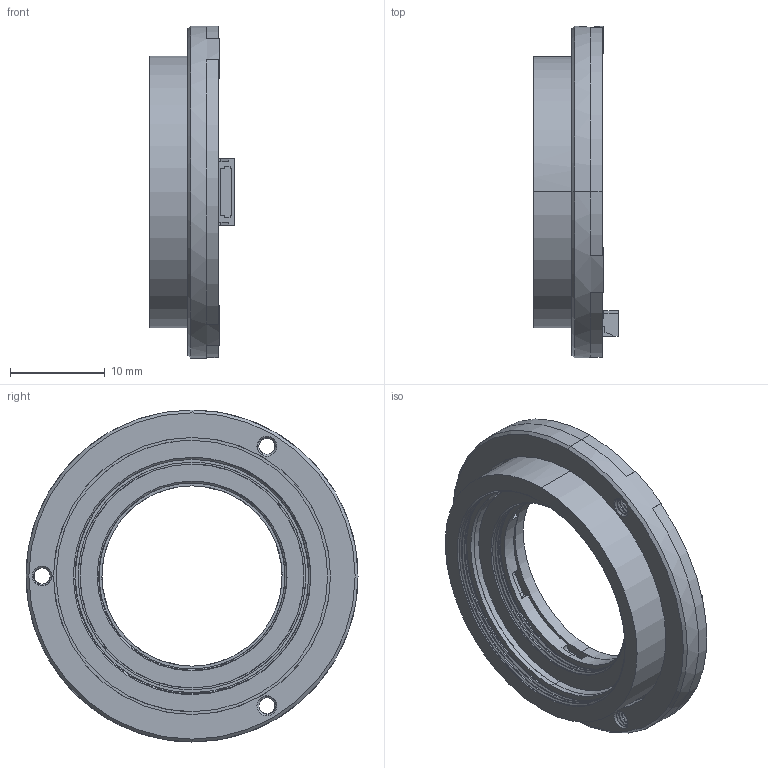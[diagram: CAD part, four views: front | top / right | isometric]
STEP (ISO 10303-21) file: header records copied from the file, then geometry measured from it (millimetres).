
FILE_DESCRIPTION (( 'STEP AP214' ), '1' );
FILE_NAME ('DPT-20-25-35 ¸üÐÂ.STEP', '2024-07-06T06:04:05', ( 'C' ), ( 'Microsoft' ), 'SwSTEP 2.0', 'SolidWorks 2016', '' );
FILE_SCHEMA (( 'AUTOMOTIVE_DESIGN' ));
Length unit declared in the file: millimetre
Products named in the file (3): 脣釱; DPT-20-25-35; DPT-20-25-35 載陔
Assembly tree (2 placements, depth 2):
  DPT-20-25-35 載陔
    DPT-20-25-35
    脣釱
Bounding box: 8.91 x 35 x 35 mm (x, y, z)
Volume: 2705.4 mm3; surface area: 5363 mm2
Topology: 9 solids, 9 shells, 450 faces, 1195 edges, 792 vertices
Faces by surface type: plane 205, cylinder 161, bspline 60, cone 24
Entity records: 23618 total; most frequent: CARTESIAN_POINT 11502, ORIENTED_EDGE 2390, DIRECTION 1745, EDGE_CURVE 1195, VERTEX_POINT 792, LINE 657, VECTOR 657, AXIS2_PLACEMENT_3D 544
